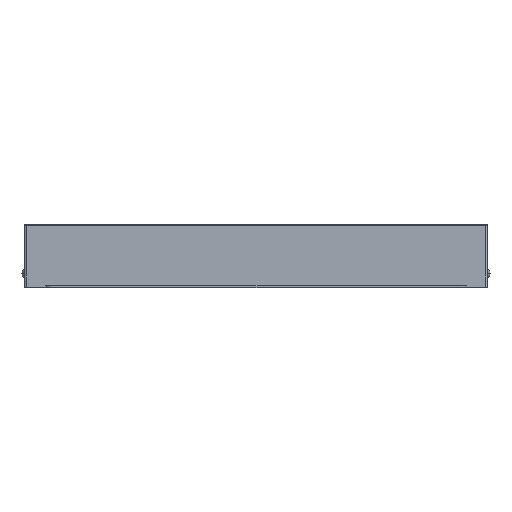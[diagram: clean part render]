
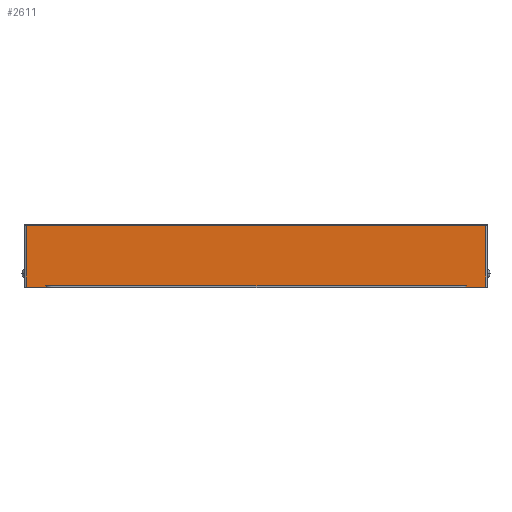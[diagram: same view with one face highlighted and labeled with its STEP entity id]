
A CAD part, top view. The second image highlights one B-rep face of the part: STEP entity #2611.
In plain terms, the highlighted planar face has unit normal (0, 0, 1).
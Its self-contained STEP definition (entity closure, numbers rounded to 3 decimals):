
#1 = FACE_OUTER_BOUND ( 'NONE', #659, .T. ) ;
#64 = EDGE_CURVE ( 'NONE', #2711, #2882, #2850, .T. ) ;
#220 = EDGE_CURVE ( 'NONE', #2711, #1303, #427, .T. ) ;
#283 = CARTESIAN_POINT ( 'NONE',  ( -149.998, 0., 165. ) ) ;
#299 = VECTOR ( 'NONE', #1519, 1000. ) ;
#365 = CARTESIAN_POINT ( 'NONE',  ( -164., 44., 165. ) ) ;
#383 = DIRECTION ( 'NONE',  ( 0., 1., 0. ) ) ;
#403 = EDGE_CURVE ( 'NONE', #3157, #1549, #542, .T. ) ;
#427 = LINE ( 'NONE', #1496, #2789 ) ;
#518 = CARTESIAN_POINT ( 'NONE',  ( -149.998, 0., 165. ) ) ;
#520 = DIRECTION ( 'NONE',  ( 0., 1., 0. ) ) ;
#542 = LINE ( 'NONE', #1644, #1693 ) ;
#624 = AXIS2_PLACEMENT_3D ( 'NONE', #1947, #1672, #1605 ) ;
#644 = CARTESIAN_POINT ( 'NONE',  ( 149.998, 0., 165. ) ) ;
#656 = DIRECTION ( 'NONE',  ( 1., 0., 0. ) ) ;
#659 = EDGE_LOOP ( 'NONE', ( #3245, #2355, #2296, #2022, #2531, #1376, #3596, #858 ) ) ;
#664 = LINE ( 'NONE', #283, #691 ) ;
#691 = VECTOR ( 'NONE', #520, 1000. ) ;
#832 = CARTESIAN_POINT ( 'NONE',  ( -149.998, 1., 165. ) ) ;
#858 = ORIENTED_EDGE ( 'NONE', *, *, #220, .F. ) ;
#1002 = VERTEX_POINT ( 'NONE', #832 ) ;
#1020 = CARTESIAN_POINT ( 'NONE',  ( 164., 0., 165. ) ) ;
#1045 = DIRECTION ( 'NONE',  ( 0., -1., 0. ) ) ;
#1170 = VECTOR ( 'NONE', #3576, 1000. ) ;
#1178 = CARTESIAN_POINT ( 'NONE',  ( -164., 0., 165. ) ) ;
#1245 = LINE ( 'NONE', #1286, #299 ) ;
#1286 = CARTESIAN_POINT ( 'NONE',  ( -165., 44., 165. ) ) ;
#1303 = VERTEX_POINT ( 'NONE', #3448 ) ;
#1320 = EDGE_CURVE ( 'NONE', #1560, #3157, #1245, .T. ) ;
#1336 = DIRECTION ( 'NONE',  ( 1., 0., 0. ) ) ;
#1355 = EDGE_CURVE ( 'NONE', #1549, #2928, #3544, .T. ) ;
#1371 = CARTESIAN_POINT ( 'NONE',  ( 164., 44., 165. ) ) ;
#1376 = ORIENTED_EDGE ( 'NONE', *, *, #2475, .T. ) ;
#1381 = EDGE_CURVE ( 'NONE', #2882, #1560, #3560, .T. ) ;
#1398 = PLANE ( 'NONE',  #624 ) ;
#1496 = CARTESIAN_POINT ( 'NONE',  ( 149.998, 0., 165. ) ) ;
#1508 = VECTOR ( 'NONE', #1637, 1000. ) ;
#1519 = DIRECTION ( 'NONE',  ( -1., 0., 0. ) ) ;
#1549 = VERTEX_POINT ( 'NONE', #1178 ) ;
#1560 = VERTEX_POINT ( 'NONE', #2797 ) ;
#1605 = DIRECTION ( 'NONE',  ( 1., 0., 0. ) ) ;
#1637 = DIRECTION ( 'NONE',  ( 1., 0., 0. ) ) ;
#1644 = CARTESIAN_POINT ( 'NONE',  ( -164., 44., 165. ) ) ;
#1672 = DIRECTION ( 'NONE',  ( 0., 0., 1. ) ) ;
#1693 = VECTOR ( 'NONE', #1045, 1000. ) ;
#1700 = CARTESIAN_POINT ( 'NONE',  ( -165., 0., 165. ) ) ;
#1911 = CARTESIAN_POINT ( 'NONE',  ( -164., 1., 165. ) ) ;
#1947 = CARTESIAN_POINT ( 'NONE',  ( 0., 44., 165. ) ) ;
#2022 = ORIENTED_EDGE ( 'NONE', *, *, #403, .T. ) ;
#2120 = VECTOR ( 'NONE', #1336, 1000. ) ;
#2296 = ORIENTED_EDGE ( 'NONE', *, *, #1320, .T. ) ;
#2355 = ORIENTED_EDGE ( 'NONE', *, *, #1381, .T. ) ;
#2452 = CARTESIAN_POINT ( 'NONE',  ( -165., 0., 165. ) ) ;
#2475 = EDGE_CURVE ( 'NONE', #2928, #1002, #664, .T. ) ;
#2503 = VECTOR ( 'NONE', #656, 1000. ) ;
#2529 = EDGE_CURVE ( 'NONE', #1002, #1303, #3029, .T. ) ;
#2531 = ORIENTED_EDGE ( 'NONE', *, *, #1355, .T. ) ;
#2611 = ADVANCED_FACE ( 'NONE', ( #1 ), #1398, .T. ) ;
#2711 = VERTEX_POINT ( 'NONE', #644 ) ;
#2789 = VECTOR ( 'NONE', #383, 1000. ) ;
#2797 = CARTESIAN_POINT ( 'NONE',  ( 164., 44., 165. ) ) ;
#2850 = LINE ( 'NONE', #1700, #2503 ) ;
#2882 = VERTEX_POINT ( 'NONE', #1020 ) ;
#2928 = VERTEX_POINT ( 'NONE', #518 ) ;
#3029 = LINE ( 'NONE', #1911, #1508 ) ;
#3157 = VERTEX_POINT ( 'NONE', #365 ) ;
#3245 = ORIENTED_EDGE ( 'NONE', *, *, #64, .T. ) ;
#3448 = CARTESIAN_POINT ( 'NONE',  ( 149.998, 1., 165. ) ) ;
#3544 = LINE ( 'NONE', #2452, #2120 ) ;
#3560 = LINE ( 'NONE', #1371, #1170 ) ;
#3576 = DIRECTION ( 'NONE',  ( 0., 1., 0. ) ) ;
#3596 = ORIENTED_EDGE ( 'NONE', *, *, #2529, .T. ) ;
